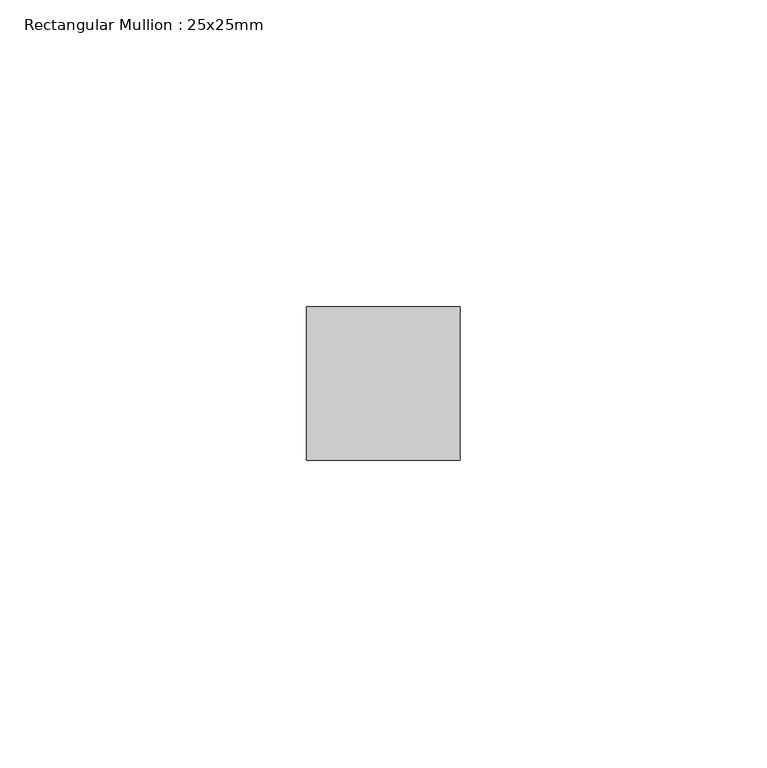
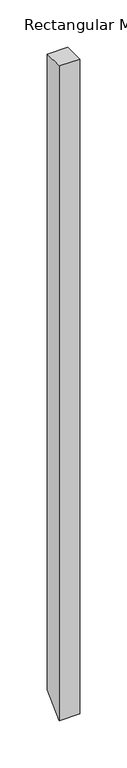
"""IFC4 building model written with IfcOpenShell, lengths in millimetres: member geometry, Rectangular Mullion : 25x25mm."""

from ifc_helpers import new_model, si_unit, frame, origin, place, context, project, spatial, polyline, outline, extrude, source, transform, mapped, element, save


def rectangular_mullion_25x25mm_14c15364(model_context):
    return source(origin(), model_context, "Body", "SweptSolid", [
        extrude(outline(polyline([(-24.5, 0.0), (0.5, 0.0), (0.5, -820.3333336), (-24.5, -845.3333336), (-24.5, 0.0)])), frame((-25.0, 0.0, 0.0), z_axis=(1.0, 0.0, 0.0), x_axis=(0.0, 1.0, 0.0)), (0.0, 0.0, 1.0), 25.0),
    ])


if __name__ == "__main__":
    model = new_model("IFC4")
    model_context = context("Model", 3, world=origin())
    ifc_project = project(units=[si_unit("LENGTHUNIT", "METRE", prefix="MILLI")], contexts=[model_context])
    site = spatial("IfcSite", under=ifc_project)
    building = spatial("IfcBuilding", under=site)
    placement = place(None, origin())
    rectangular_mullion_25x25mm_shape = rectangular_mullion_25x25mm_14c15364(model_context)
    element("IfcMember", 1, ObjectType="Rectangular Mullion : 25x25mm", at=placement, inside=building, context=model_context, shape_type="MappedRepresentation", body=[
        mapped(rectangular_mullion_25x25mm_shape, transform((0.0, 0.0, 0.0), x_axis=(1.0, 0.0, 0.0), y_axis=(0.0, 1.0, 0.0), z_axis=(0.0, 0.0, 1.0))),
    ])
    save(model, "model.ifc")
